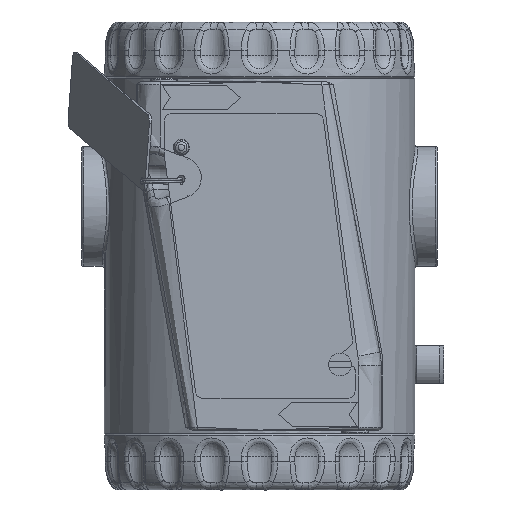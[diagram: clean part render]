
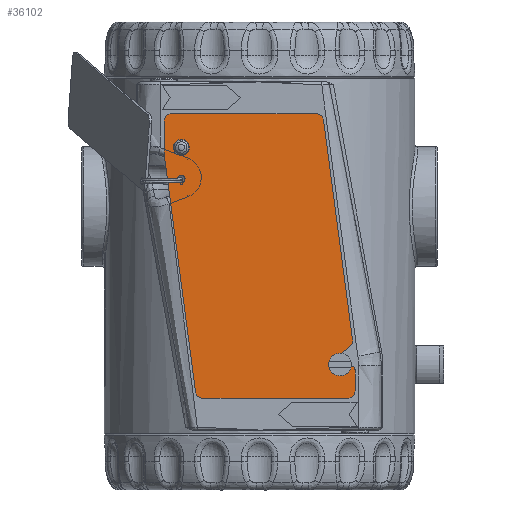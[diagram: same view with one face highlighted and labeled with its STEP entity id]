
A CAD part, left-side view. The second image highlights one B-rep face of the part: STEP entity #36102.
In plain terms, the highlighted planar face has unit normal (-1, 0, 0) as drawn and (0, 0, 1) by its records, which use the part's own axes.
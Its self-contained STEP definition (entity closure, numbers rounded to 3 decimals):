
#1111=PLANE('',#40281);
#1694=FACE_BOUND('',#9519,.T.);
#1695=FACE_BOUND('',#9520,.T.);
#3000=LINE('',#77375,#4623);
#3004=LINE('',#77387,#4627);
#3008=LINE('',#77399,#4631);
#3012=LINE('',#77411,#4635);
#3016=LINE('',#77423,#4639);
#3019=LINE('',#77429,#4642);
#3023=LINE('',#77441,#4646);
#3027=LINE('',#77452,#4650);
#4623=VECTOR('',#48820,10.);
#4627=VECTOR('',#48832,10.);
#4631=VECTOR('',#48844,10.);
#4635=VECTOR('',#48856,10.);
#4639=VECTOR('',#48868,10.);
#4642=VECTOR('',#48873,10.);
#4646=VECTOR('',#48885,10.);
#4650=VECTOR('',#48897,10.);
#7206=FACE_OUTER_BOUND('',#9518,.T.);
#9518=EDGE_LOOP('',(#30527,#30528,#30529,#30530,#30531,#30532,#30533,#30534,
#30535,#30536,#30537,#30538,#30539,#30540,#30541));
#9519=EDGE_LOOP('',(#30542));
#9520=EDGE_LOOP('',(#30543));
#11919=CIRCLE('',#40247,1.35);
#11921=CIRCLE('',#40250,1.);
#11922=CIRCLE('',#40252,2.);
#11924=CIRCLE('',#40256,2.);
#11926=CIRCLE('',#40260,1.);
#11928=CIRCLE('',#40264,2.);
#11930=CIRCLE('',#40268,2.);
#11932=CIRCLE('',#40273,2.);
#11934=CIRCLE('',#40277,2.);
#16308=VERTEX_POINT('',#77355);
#16310=VERTEX_POINT('',#77361);
#16311=VERTEX_POINT('',#77365);
#16312=VERTEX_POINT('',#77366);
#16315=VERTEX_POINT('',#77374);
#16317=VERTEX_POINT('',#77380);
#16319=VERTEX_POINT('',#77386);
#16321=VERTEX_POINT('',#77392);
#16323=VERTEX_POINT('',#77398);
#16325=VERTEX_POINT('',#77404);
#16327=VERTEX_POINT('',#77410);
#16329=VERTEX_POINT('',#77416);
#16331=VERTEX_POINT('',#77422);
#16333=VERTEX_POINT('',#77428);
#16335=VERTEX_POINT('',#77434);
#16337=VERTEX_POINT('',#77440);
#16339=VERTEX_POINT('',#77446);
#21179=EDGE_CURVE('',#16308,#16308,#11919,.T.);
#21182=EDGE_CURVE('',#16310,#16310,#11921,.T.);
#21183=EDGE_CURVE('',#16311,#16312,#11922,.T.);
#21187=EDGE_CURVE('',#16312,#16315,#3000,.T.);
#21190=EDGE_CURVE('',#16315,#16317,#11924,.T.);
#21193=EDGE_CURVE('',#16317,#16319,#3004,.T.);
#21196=EDGE_CURVE('',#16319,#16321,#11926,.T.);
#21199=EDGE_CURVE('',#16321,#16323,#3008,.T.);
#21202=EDGE_CURVE('',#16323,#16325,#11928,.T.);
#21205=EDGE_CURVE('',#16325,#16327,#3012,.T.);
#21208=EDGE_CURVE('',#16327,#16329,#11930,.T.);
#21211=EDGE_CURVE('',#16329,#16331,#3016,.T.);
#21214=EDGE_CURVE('',#16331,#16333,#3019,.T.);
#21217=EDGE_CURVE('',#16333,#16335,#11932,.T.);
#21220=EDGE_CURVE('',#16335,#16337,#3023,.T.);
#21223=EDGE_CURVE('',#16337,#16339,#11934,.T.);
#21226=EDGE_CURVE('',#16339,#16311,#3027,.T.);
#30527=ORIENTED_EDGE('',*,*,#21183,.F.);
#30528=ORIENTED_EDGE('',*,*,#21226,.F.);
#30529=ORIENTED_EDGE('',*,*,#21223,.F.);
#30530=ORIENTED_EDGE('',*,*,#21220,.F.);
#30531=ORIENTED_EDGE('',*,*,#21217,.F.);
#30532=ORIENTED_EDGE('',*,*,#21214,.F.);
#30533=ORIENTED_EDGE('',*,*,#21211,.F.);
#30534=ORIENTED_EDGE('',*,*,#21208,.F.);
#30535=ORIENTED_EDGE('',*,*,#21205,.F.);
#30536=ORIENTED_EDGE('',*,*,#21202,.F.);
#30537=ORIENTED_EDGE('',*,*,#21199,.F.);
#30538=ORIENTED_EDGE('',*,*,#21196,.F.);
#30539=ORIENTED_EDGE('',*,*,#21193,.F.);
#30540=ORIENTED_EDGE('',*,*,#21190,.F.);
#30541=ORIENTED_EDGE('',*,*,#21187,.F.);
#30542=ORIENTED_EDGE('',*,*,#21179,.T.);
#30543=ORIENTED_EDGE('',*,*,#21182,.T.);
#36102=ADVANCED_FACE('',(#7206,#1694,#1695),#1111,.T.);
#40247=AXIS2_PLACEMENT_3D('',#77357,#48801,#48802);
#40250=AXIS2_PLACEMENT_3D('',#77363,#48808,#48809);
#40252=AXIS2_PLACEMENT_3D('',#77367,#48812,#48813);
#40256=AXIS2_PLACEMENT_3D('',#77381,#48825,#48826);
#40260=AXIS2_PLACEMENT_3D('',#77393,#48837,#48838);
#40264=AXIS2_PLACEMENT_3D('',#77405,#48849,#48850);
#40268=AXIS2_PLACEMENT_3D('',#77417,#48861,#48862);
#40273=AXIS2_PLACEMENT_3D('',#77435,#48878,#48879);
#40277=AXIS2_PLACEMENT_3D('',#77447,#48890,#48891);
#40281=AXIS2_PLACEMENT_3D('',#77455,#48901,#48902);
#48801=DIRECTION('center_axis',(0.,0.,-1.));
#48802=DIRECTION('ref_axis',(-1.,0.,0.));
#48808=DIRECTION('center_axis',(0.,0.,-1.));
#48809=DIRECTION('ref_axis',(-1.,0.,0.));
#48812=DIRECTION('center_axis',(0.,0.,-1.));
#48813=DIRECTION('ref_axis',(0.766,0.643,0.));
#48820=DIRECTION('',(0.643,-0.766,0.));
#48825=DIRECTION('center_axis',(0.,0.,1.));
#48826=DIRECTION('ref_axis',(0.766,0.643,0.));
#48832=DIRECTION('',(-0.643,0.766,0.));
#48837=DIRECTION('center_axis',(0.,0.,-1.));
#48838=DIRECTION('ref_axis',(0.,1.,0.));
#48844=DIRECTION('',(1.,0.,0.));
#48849=DIRECTION('center_axis',(0.,0.,-1.));
#48850=DIRECTION('ref_axis',(1.,0.,0.));
#48856=DIRECTION('',(0.,-1.,0.));
#48861=DIRECTION('center_axis',(0.,0.,-1.));
#48862=DIRECTION('ref_axis',(0.131,-0.991,0.));
#48868=DIRECTION('',(-0.991,-0.131,0.));
#48873=DIRECTION('',(-1.,0.,0.));
#48878=DIRECTION('center_axis',(0.,0.,-1.));
#48879=DIRECTION('ref_axis',(-1.,0.,0.));
#48885=DIRECTION('',(0.,1.,0.));
#48890=DIRECTION('center_axis',(0.,0.,-1.));
#48891=DIRECTION('ref_axis',(-0.131,0.991,0.));
#48897=DIRECTION('',(0.991,0.131,0.));
#48901=DIRECTION('center_axis',(0.,0.,1.));
#48902=DIRECTION('ref_axis',(1.,0.,0.));
#77355=CARTESIAN_POINT('',(10.35,4.599,0.7));
#77357=CARTESIAN_POINT('Origin',(9.,4.599,0.7));
#77361=CARTESIAN_POINT('',(18.4,4.599,0.7));
#77363=CARTESIAN_POINT('Origin',(17.4,4.599,0.7));
#77365=CARTESIAN_POINT('',(60.389,50.327,0.7));
#77366=CARTESIAN_POINT('',(62.182,49.63,0.7));
#77367=CARTESIAN_POINT('Origin',(60.65,48.344,0.7));
#77374=CARTESIAN_POINT('',(65.468,45.714,0.7));
#77375=CARTESIAN_POINT('',(65.468,45.714,0.7));
#77380=CARTESIAN_POINT('',(68.532,48.286,0.7));
#77381=CARTESIAN_POINT('Origin',(67.,47.,0.7));
#77386=CARTESIAN_POINT('',(67.633,49.357,0.7));
#77387=CARTESIAN_POINT('',(67.633,49.357,0.7));
#77392=CARTESIAN_POINT('',(68.399,51.,0.7));
#77393=CARTESIAN_POINT('Origin',(68.399,50.,0.7));
#77398=CARTESIAN_POINT('',(74.,51.,0.7));
#77399=CARTESIAN_POINT('',(74.,51.,0.7));
#77404=CARTESIAN_POINT('',(76.,49.,0.7));
#77405=CARTESIAN_POINT('Origin',(74.,49.,0.7));
#77410=CARTESIAN_POINT('',(76.,10.377,0.7));
#77411=CARTESIAN_POINT('',(76.,10.377,0.7));
#77416=CARTESIAN_POINT('',(74.261,8.394,0.7));
#77417=CARTESIAN_POINT('Origin',(74.,10.377,0.7));
#77422=CARTESIAN_POINT('',(10.5,0.,0.7));
#77423=CARTESIAN_POINT('',(10.5,0.,0.7));
#77428=CARTESIAN_POINT('',(2.,0.,0.7));
#77429=CARTESIAN_POINT('',(2.,0.,0.7));
#77434=CARTESIAN_POINT('',(0.,2.,0.7));
#77435=CARTESIAN_POINT('Origin',(2.,2.,0.7));
#77440=CARTESIAN_POINT('',(0.,40.623,0.7));
#77441=CARTESIAN_POINT('',(0.,40.623,0.7));
#77446=CARTESIAN_POINT('',(1.739,42.606,0.7));
#77447=CARTESIAN_POINT('Origin',(2.,40.623,0.7));
#77452=CARTESIAN_POINT('',(60.389,50.327,0.7));
#77455=CARTESIAN_POINT('Origin',(39.077,26.228,0.7));
